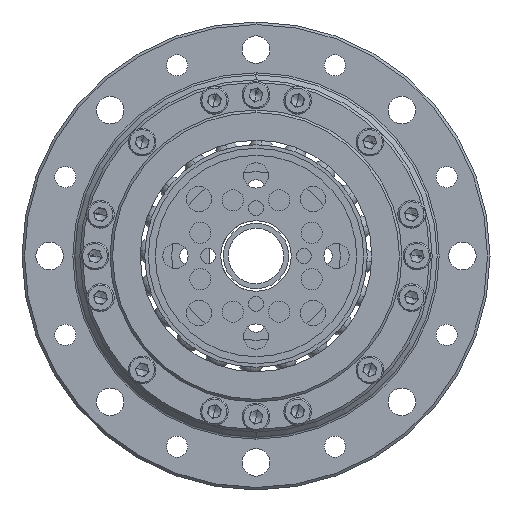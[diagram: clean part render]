
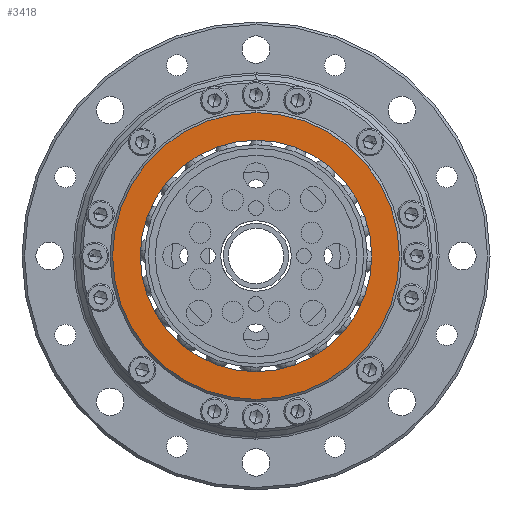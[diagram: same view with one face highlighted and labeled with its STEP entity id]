
A CAD part, left-side view. The second image highlights one B-rep face of the part: STEP entity #3418.
In plain terms, the highlighted planar face has unit normal (-1, 0, 0).
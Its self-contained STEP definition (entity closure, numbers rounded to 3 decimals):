
#972 = PLANE ( 'NONE',  #20414 ) ;
#986 = EDGE_CURVE ( 'NONE', #14912, #9229, #14982, .T. ) ;
#1057 = DIRECTION ( 'NONE',  ( -1., 0., 0. ) ) ;
#1081 = DIRECTION ( 'NONE',  ( 0., 0., -1. ) ) ;
#2302 = CARTESIAN_POINT ( 'NONE',  ( -35.653, -9.167, 93. ) ) ;
#2496 = DIRECTION ( 'NONE',  ( -1., 0., 0. ) ) ;
#2563 = DIRECTION ( 'NONE',  ( 0., 0., -1. ) ) ;
#2842 = CIRCLE ( 'NONE', #12588, 23. ) ;
#3418 = ADVANCED_FACE ( 'NONE', ( #14594, #14006 ), #972, .T. ) ;
#3799 = AXIS2_PLACEMENT_3D ( 'NONE', #2302, #2496, #2563 ) ;
#4005 = EDGE_LOOP ( 'NONE', ( #22417, #23013 ) ) ;
#4170 = CARTESIAN_POINT ( 'NONE',  ( -35.653, -9.167, 121.5 ) ) ;
#4804 = AXIS2_PLACEMENT_3D ( 'NONE', #9925, #23039, #11829 ) ;
#4834 = CARTESIAN_POINT ( 'NONE',  ( -35.653, -9.167, 70. ) ) ;
#5255 = VERTEX_POINT ( 'NONE', #11967 ) ;
#5633 = VERTEX_POINT ( 'NONE', #4170 ) ;
#6236 = CIRCLE ( 'NONE', #10813, 28.5 ) ;
#6272 = CIRCLE ( 'NONE', #4804, 28.5 ) ;
#6466 = EDGE_CURVE ( 'NONE', #9229, #14912, #2842, .T. ) ;
#7957 = CARTESIAN_POINT ( 'NONE',  ( -35.653, -9.167, 93. ) ) ;
#8039 = DIRECTION ( 'NONE',  ( -1., 0., 0. ) ) ;
#8095 = DIRECTION ( 'NONE',  ( 0., 0., -1. ) ) ;
#8930 = EDGE_CURVE ( 'NONE', #5255, #5633, #6236, .T. ) ;
#9229 = VERTEX_POINT ( 'NONE', #20130 ) ;
#9925 = CARTESIAN_POINT ( 'NONE',  ( -35.653, -9.167, 93. ) ) ;
#10813 = AXIS2_PLACEMENT_3D ( 'NONE', #7957, #8039, #8095 ) ;
#11666 = CARTESIAN_POINT ( 'NONE',  ( -35.653, -9.167, 93. ) ) ;
#11829 = DIRECTION ( 'NONE',  ( 0., 0., -1. ) ) ;
#11871 = ORIENTED_EDGE ( 'NONE', *, *, #8930, .T. ) ;
#11967 = CARTESIAN_POINT ( 'NONE',  ( -35.653, -9.167, 64.5 ) ) ;
#12588 = AXIS2_PLACEMENT_3D ( 'NONE', #17851, #17774, #17755 ) ;
#14006 = FACE_BOUND ( 'NONE', #4005, .T. ) ;
#14594 = FACE_OUTER_BOUND ( 'NONE', #18865, .T. ) ;
#14912 = VERTEX_POINT ( 'NONE', #4834 ) ;
#14982 = CIRCLE ( 'NONE', #3799, 23. ) ;
#17755 = DIRECTION ( 'NONE',  ( 0., 0., -1. ) ) ;
#17774 = DIRECTION ( 'NONE',  ( -1., 0., 0. ) ) ;
#17851 = CARTESIAN_POINT ( 'NONE',  ( -35.653, -9.167, 93. ) ) ;
#18865 = EDGE_LOOP ( 'NONE', ( #20070, #11871 ) ) ;
#20070 = ORIENTED_EDGE ( 'NONE', *, *, #23880, .T. ) ;
#20130 = CARTESIAN_POINT ( 'NONE',  ( -35.653, -9.167, 116. ) ) ;
#20414 = AXIS2_PLACEMENT_3D ( 'NONE', #11666, #1057, #1081 ) ;
#22417 = ORIENTED_EDGE ( 'NONE', *, *, #986, .F. ) ;
#23013 = ORIENTED_EDGE ( 'NONE', *, *, #6466, .F. ) ;
#23039 = DIRECTION ( 'NONE',  ( -1., 0., 0. ) ) ;
#23880 = EDGE_CURVE ( 'NONE', #5633, #5255, #6272, .T. ) ;
